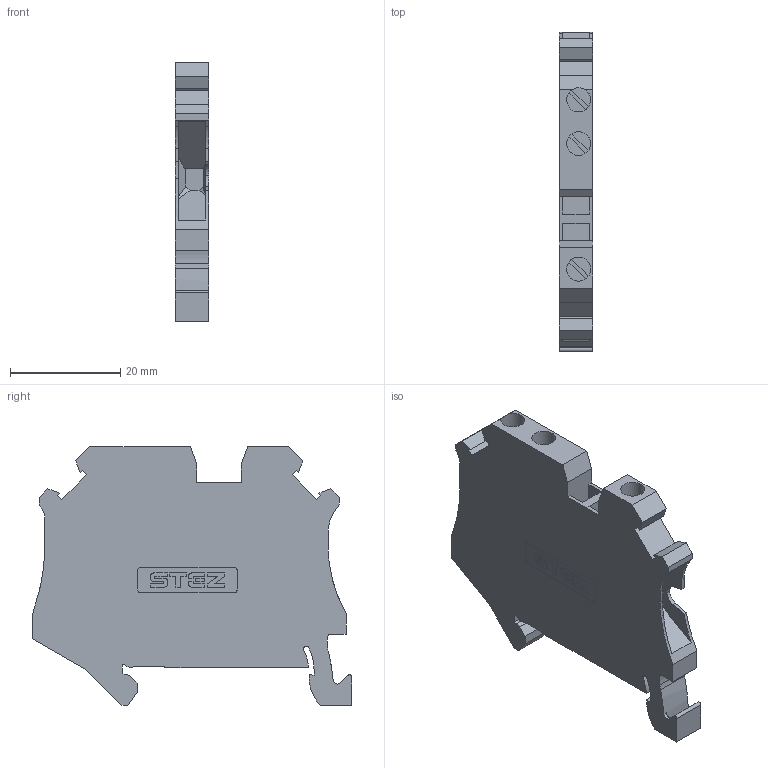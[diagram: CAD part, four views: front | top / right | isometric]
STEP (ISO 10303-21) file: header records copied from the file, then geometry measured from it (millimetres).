
FILE_DESCRIPTION(('TFLEX Exchange Step'),'2;1');
FILE_NAME('11000070_КНВ_4-3.stp', '2024-04-26T16:18:21+03:00',('apanin'),('Unknown organisation'),'TFLEX Exchange 2023.2','T-FLEX CAD','Unknown authorisation');
FILE_SCHEMA( ('AUTOMOTIVE_DESIGN { 1 0 10303 214 1 1 1 1 }') );
Length unit declared in the file: millimetre
Products named in the file (1): Тело_1 - UT4_TWIN-select:1
Bounding box: 6.15 x 57.8 x 46.85 mm (x, y, z)
Volume: 10346.4 mm3; surface area: 6969 mm2
Topology: 1 solids, 1 shells, 395 faces, 1146 edges, 762 vertices
Faces by surface type: plane 201, cylinder 194
Full cylindrical faces by diameter (mm): 4.35 x3
Entity records: 13217 total; most frequent: DIRECTION 2346, CARTESIAN_POINT 2308, ORIENTED_EDGE 2292, EDGE_CURVE 1146, AXIS2_PLACEMENT_3D 806, VERTEX_POINT 762, VECTOR 734, LINE 734
